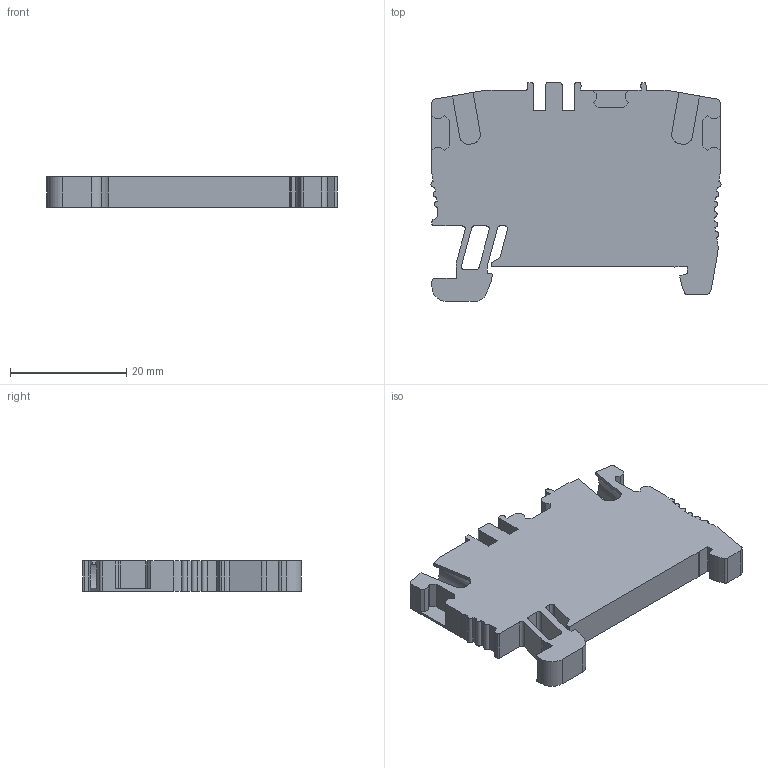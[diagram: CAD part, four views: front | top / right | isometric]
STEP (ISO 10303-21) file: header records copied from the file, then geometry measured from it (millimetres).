
FILE_DESCRIPTION(('Creo Elements/Direct Modeling STEP Export'),'2;1');
FILE_NAME('EFC.2.stp','2018-11-08T 9:38:23',(''),(''),'Creo Elements/Direct Modeling STEP processor for AP214 (Solid Model)','Creo Elements/Direct Modeling 20.1 10-Mar-2018 (C) Parametric Technology GmbH','');
FILE_SCHEMA(('AUTOMOTIVE_DESIGN { 1 0 10303 214 1 1 1 1 }'));
Length unit declared in the file: millimetre
Products named in the file (1): EFC.2
Bounding box: 49.96 x 37.7 x 5.2 mm (x, y, z)
Volume: 7019.8 mm3; surface area: 4656.8 mm2
Topology: 1 solids, 1 shells, 199 faces, 579 edges, 386 vertices
Faces by surface type: plane 133, cylinder 66
Entity records: 6708 total; most frequent: ORIENTED_EDGE 1158, CARTESIAN_POINT 1151, DIRECTION 1094, EDGE_CURVE 579, VECTOR 436, LINE 436, VERTEX_POINT 386, AXIS2_PLACEMENT_3D 329
